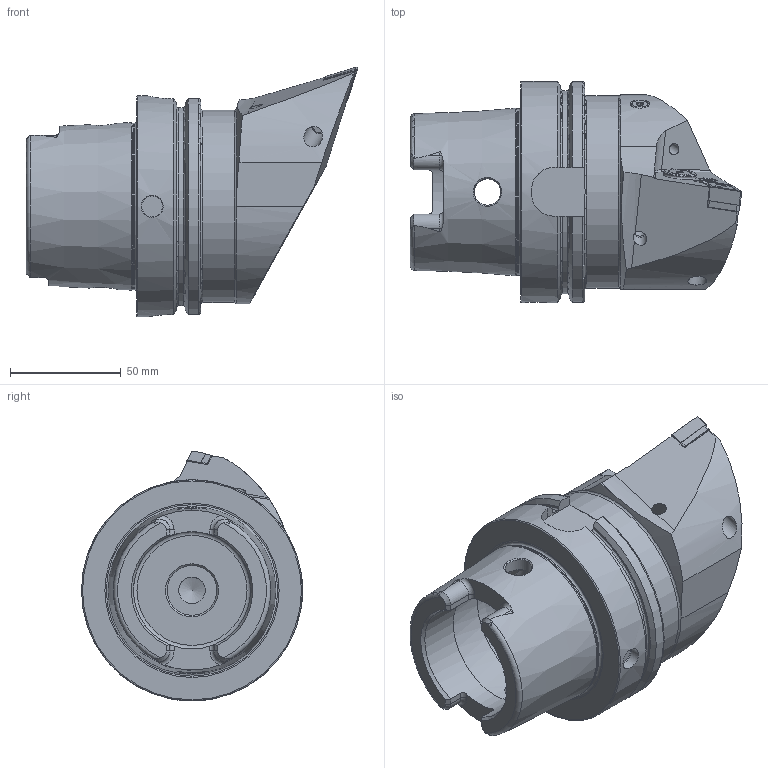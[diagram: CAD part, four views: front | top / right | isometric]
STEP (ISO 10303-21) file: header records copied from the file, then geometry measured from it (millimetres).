
FILE_DESCRIPTION (( 'STEP AP214' ), '1' );
FILE_NAME ('HA0.PDF.LHA.100-HP.STEP', '2020-01-23T14:53:47', ( '' ), ( '' ), 'SwSTEP 2.0', 'SolidWorks 2017', '' );
FILE_SCHEMA (( 'AUTOMOTIVE_DESIGN' ));
Length unit declared in the file: millimetre
Products named in the file (14): KVT_MB_600_060; HA0-PDF.LHA.100-HP_A_Fertigbearbeitung; DIN 3771 - 13x1; DNMG150604; DIN 7991 - M5x15; HA0.PDF.LHA.100-HP; WCD-ER1.101.000; WDF-ER3.101.000_A; CHP-ER1.015.006; WDF-ER2.101.003_A; CHP-ER1.008.014_A; ISO 8752 2x8; WCD-ER4.101.017_A; CHP-ER1.015.006_A
Assembly tree (13 placements, depth 3):
  HA0.PDF.LHA.100-HP
    HA0-PDF.LHA.100-HP_A_Fertigbearbeitung
    KVT_MB_600_060
    DNMG150604
    WDF-ER2.101.003_A
    WCD-ER4.101.017_A
    WDF-ER3.101.000_A
    WCD-ER1.101.000
    CHP-ER1.015.006
      CHP-ER1.015.006_A
      DIN 3771 - 13x1
      DIN 7991 - M5x15
    ISO 8752 2x8
    CHP-ER1.008.014_A
Bounding box: 149.91 x 100 x 113.01 mm (x, y, z)
Volume: 527004.7 mm3; surface area: 73519.4 mm2
Topology: 13 solids, 13 shells, 380 faces, 938 edges, 581 vertices
Faces by surface type: plane 155, cylinder 90, cone 84, torus 36, bspline 14, sphere 1
Full cylindrical faces by diameter (mm): 2 x1, 2.5 x1, 3 x1, 3.55 x1, 4.2 x2, 4.7 x1, 5 x5, 5.16 x1, 5.2 x1, 5.5 x1, 6 x3, 6.4 x2, 7 x2, 7.9 x2, 8 x2, 8.4 x1, 10 x2, 12 x3, 13.4 x1, 15 x4, 22.5 x1, 26 x1, 53 x2, 63 x1, 75.265 x1, 87 x1, 100 x1
Entity records: 14309 total; most frequent: CARTESIAN_POINT 4576, DIRECTION 1635, ORIENTED_EDGE 1566, EDGE_CURVE 783, AXIS2_PLACEMENT_3D 660, VERTEX_POINT 547, EDGE_LOOP 520, FACE_OUTER_BOUND 440
